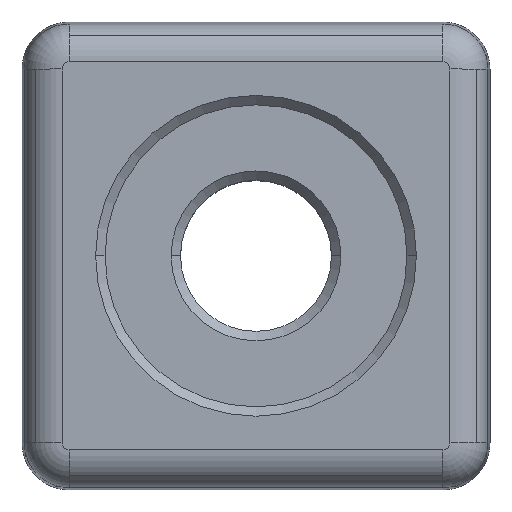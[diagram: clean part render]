
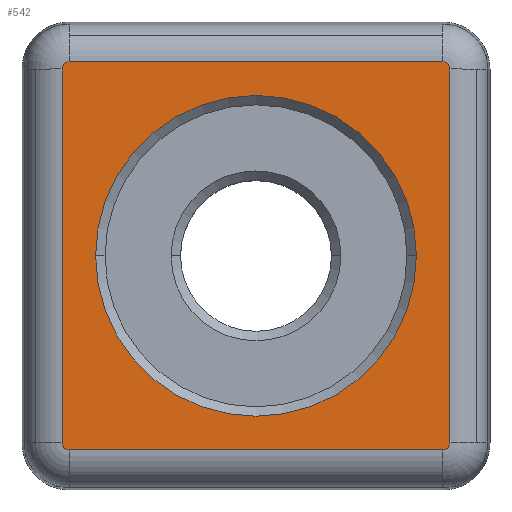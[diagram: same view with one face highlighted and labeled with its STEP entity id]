
A CAD part, top view. The second image highlights one B-rep face of the part: STEP entity #542.
In plain terms, the highlighted planar face has unit normal (0, 0, 1).
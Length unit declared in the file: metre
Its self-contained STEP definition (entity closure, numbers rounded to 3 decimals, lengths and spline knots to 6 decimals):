
#6 = EDGE_CURVE ( 'NONE', #1403, #287, #324, .T. ) ;
#13 = CARTESIAN_POINT ( 'NONE',  ( 0.425946, 0.474645, 0.01275 ) ) ;
#15 = ORIENTED_EDGE ( 'NONE', *, *, #2102, .F. ) ;
#38 = CIRCLE ( 'NONE', #782, 0.0085 ) ;
#105 = VERTEX_POINT ( 'NONE', #1513 ) ;
#148 = CARTESIAN_POINT ( 'NONE',  ( 0.410855, 0.484922, 0.01275 ) ) ;
#164 = LINE ( 'NONE', #1441, #2040 ) ;
#173 = CARTESIAN_POINT ( 'NONE',  ( 0.405769, 0.484545, 0.01275 ) ) ;
#287 = VERTEX_POINT ( 'NONE', #1378 ) ;
#313 = VECTOR ( 'NONE', #1461, 1. ) ;
#324 = LINE ( 'NONE', #148, #1079 ) ;
#411 = CARTESIAN_POINT ( 'NONE',  ( 0.40604, 0.474645, 0.01275 ) ) ;
#465 = CARTESIAN_POINT ( 'NONE',  ( 0.405393, 0.464745, 0.01275 ) ) ;
#531 = DIRECTION ( 'NONE',  ( 1., 0., 0. ) ) ;
#542 = ADVANCED_FACE ( 'NONE', ( #3454, #934 ), #1519, .T. ) ;
#585 = ORIENTED_EDGE ( 'NONE', *, *, #1002, .F. ) ;
#782 = AXIS2_PLACEMENT_3D ( 'NONE', #3558, #3530, #1834 ) ;
#831 = ORIENTED_EDGE ( 'NONE', *, *, #3027, .F. ) ;
#934 = FACE_BOUND ( 'NONE', #3400, .T. ) ;
#987 = AXIS2_PLACEMENT_3D ( 'NONE', #2966, #3263, #3565 ) ;
#1002 = EDGE_CURVE ( 'NONE', #2320, #1417, #164, .T. ) ;
#1014 = LINE ( 'NONE', #13, #313 ) ;
#1064 = CARTESIAN_POINT ( 'NONE',  ( 0.405769, 0.464745, 0.01275 ) ) ;
#1079 = VECTOR ( 'NONE', #1360, 1. ) ;
#1108 = EDGE_CURVE ( 'NONE', #1417, #1403, #1330, .T. ) ;
#1164 = CARTESIAN_POINT ( 'NONE',  ( 0.405769, 0.464369, 0.01275 ) ) ;
#1222 = LINE ( 'NONE', #2450, #1574 ) ;
#1304 = ORIENTED_EDGE ( 'NONE', *, *, #1108, .F. ) ;
#1323 = AXIS2_PLACEMENT_3D ( 'NONE', #173, #2144, #2131 ) ;
#1330 = CIRCLE ( 'NONE', #1323, 0.000377 ) ;
#1360 = DIRECTION ( 'NONE',  ( 1., 0., 0. ) ) ;
#1378 = CARTESIAN_POINT ( 'NONE',  ( 0.425569, 0.484922, 0.01275 ) ) ;
#1385 = DIRECTION ( 'NONE',  ( 0.707, 0.707, 0. ) ) ;
#1403 = VERTEX_POINT ( 'NONE', #2685 ) ;
#1415 = ORIENTED_EDGE ( 'NONE', *, *, #3059, .F. ) ;
#1417 = VERTEX_POINT ( 'NONE', #1578 ) ;
#1441 = CARTESIAN_POINT ( 'NONE',  ( 0.405393, 0.474645, 0.01275 ) ) ;
#1461 = DIRECTION ( 'NONE',  ( 0., -1., 0. ) ) ;
#1472 = DIRECTION ( 'NONE',  ( 0., 1., 0. ) ) ;
#1513 = CARTESIAN_POINT ( 'NONE',  ( 0.425946, 0.464745, 0.01275 ) ) ;
#1516 = CIRCLE ( 'NONE', #1561, 0.0085 ) ;
#1517 = AXIS2_PLACEMENT_3D ( 'NONE', #1064, #2469, #3329 ) ;
#1519 = PLANE ( 'NONE',  #3323 ) ;
#1520 = ORIENTED_EDGE ( 'NONE', *, *, #1654, .F. ) ;
#1561 = AXIS2_PLACEMENT_3D ( 'NONE', #2207, #2729, #531 ) ;
#1574 = VECTOR ( 'NONE', #1617, 1. ) ;
#1578 = CARTESIAN_POINT ( 'NONE',  ( 0.405393, 0.484545, 0.01275 ) ) ;
#1617 = DIRECTION ( 'NONE',  ( -1., 0., 0. ) ) ;
#1621 = VERTEX_POINT ( 'NONE', #1164 ) ;
#1654 = EDGE_CURVE ( 'NONE', #2571, #105, #1014, .T. ) ;
#1728 = ORIENTED_EDGE ( 'NONE', *, *, #3093, .F. ) ;
#1834 = DIRECTION ( 'NONE',  ( 1., 0., 0. ) ) ;
#1916 = EDGE_CURVE ( 'NONE', #3443, #3494, #38, .T. ) ;
#1967 = DIRECTION ( 'NONE',  ( 0., 0., -1. ) ) ;
#1987 = ORIENTED_EDGE ( 'NONE', *, *, #1916, .F. ) ;
#2024 = CARTESIAN_POINT ( 'NONE',  ( 0.425569, 0.464369, 0.01275 ) ) ;
#2040 = VECTOR ( 'NONE', #1472, 1. ) ;
#2098 = EDGE_LOOP ( 'NONE', ( #1520, #15, #2402, #1304, #585, #1415, #2713, #831 ) ) ;
#2102 = EDGE_CURVE ( 'NONE', #287, #2571, #2205, .T. ) ;
#2116 = DIRECTION ( 'NONE',  ( 0., 0., 1. ) ) ;
#2128 = DIRECTION ( 'NONE',  ( 1., 0., 0. ) ) ;
#2131 = DIRECTION ( 'NONE',  ( -0.707, 0.707, 0. ) ) ;
#2144 = DIRECTION ( 'NONE',  ( 0., 0., -1. ) ) ;
#2205 = CIRCLE ( 'NONE', #3492, 0.000377 ) ;
#2207 = CARTESIAN_POINT ( 'NONE',  ( 0.415669, 0.474645, 0.01275 ) ) ;
#2320 = VERTEX_POINT ( 'NONE', #465 ) ;
#2402 = ORIENTED_EDGE ( 'NONE', *, *, #6, .F. ) ;
#2450 = CARTESIAN_POINT ( 'NONE',  ( 0.410855, 0.464369, 0.01275 ) ) ;
#2469 = DIRECTION ( 'NONE',  ( 0., 0., -1. ) ) ;
#2482 = CARTESIAN_POINT ( 'NONE',  ( 0.425569, 0.484545, 0.01275 ) ) ;
#2571 = VERTEX_POINT ( 'NONE', #2616 ) ;
#2616 = CARTESIAN_POINT ( 'NONE',  ( 0.425946, 0.484545, 0.01275 ) ) ;
#2685 = CARTESIAN_POINT ( 'NONE',  ( 0.405769, 0.484922, 0.01275 ) ) ;
#2713 = ORIENTED_EDGE ( 'NONE', *, *, #3650, .F. ) ;
#2729 = DIRECTION ( 'NONE',  ( 0., 0., 1. ) ) ;
#2786 = CARTESIAN_POINT ( 'NONE',  ( 0.424169, 0.474645, 0.01275 ) ) ;
#2873 = CARTESIAN_POINT ( 'NONE',  ( 0.407169, 0.474645, 0.01275 ) ) ;
#2966 = CARTESIAN_POINT ( 'NONE',  ( 0.425569, 0.464745, 0.01275 ) ) ;
#3000 = CIRCLE ( 'NONE', #987, 0.000377 ) ;
#3027 = EDGE_CURVE ( 'NONE', #105, #3383, #3000, .T. ) ;
#3059 = EDGE_CURVE ( 'NONE', #1621, #2320, #3128, .T. ) ;
#3093 = EDGE_CURVE ( 'NONE', #3494, #3443, #1516, .T. ) ;
#3128 = CIRCLE ( 'NONE', #1517, 0.000377 ) ;
#3263 = DIRECTION ( 'NONE',  ( 0., 0., -1. ) ) ;
#3323 = AXIS2_PLACEMENT_3D ( 'NONE', #411, #2116, #2128 ) ;
#3329 = DIRECTION ( 'NONE',  ( -0.707, -0.707, 0. ) ) ;
#3383 = VERTEX_POINT ( 'NONE', #2024 ) ;
#3400 = EDGE_LOOP ( 'NONE', ( #1728, #1987 ) ) ;
#3443 = VERTEX_POINT ( 'NONE', #2786 ) ;
#3454 = FACE_OUTER_BOUND ( 'NONE', #2098, .T. ) ;
#3492 = AXIS2_PLACEMENT_3D ( 'NONE', #2482, #1967, #1385 ) ;
#3494 = VERTEX_POINT ( 'NONE', #2873 ) ;
#3530 = DIRECTION ( 'NONE',  ( 0., 0., 1. ) ) ;
#3558 = CARTESIAN_POINT ( 'NONE',  ( 0.415669, 0.474645, 0.01275 ) ) ;
#3565 = DIRECTION ( 'NONE',  ( 0.707, -0.707, 0. ) ) ;
#3650 = EDGE_CURVE ( 'NONE', #3383, #1621, #1222, .T. ) ;
